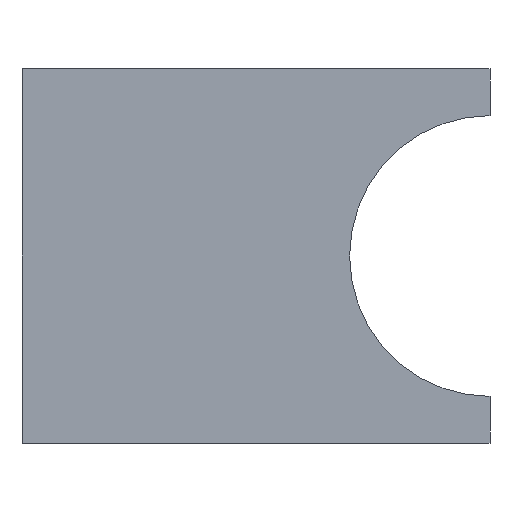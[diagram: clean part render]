
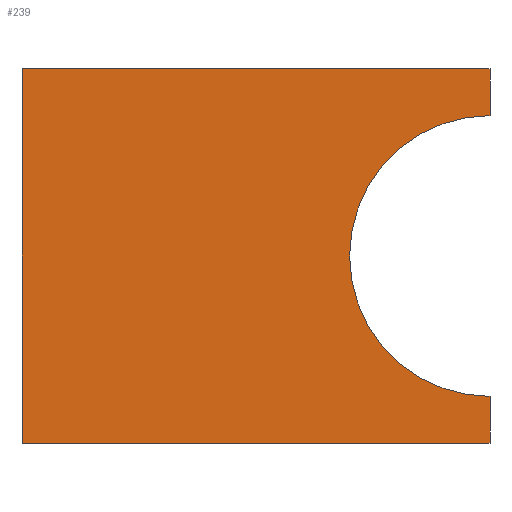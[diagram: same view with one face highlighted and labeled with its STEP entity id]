
A CAD part, left-side view. The second image highlights one B-rep face of the part: STEP entity #239.
In plain terms, the highlighted planar face has unit normal (-1, 0, 0).
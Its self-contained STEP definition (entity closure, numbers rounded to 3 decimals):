
#8 = CARTESIAN_POINT ( 'NONE',  ( -45., -25., 40. ) ) ;
#10 = DIRECTION ( 'NONE',  ( 0., 0., -1. ) ) ;
#17 = EDGE_LOOP ( 'NONE', ( #85, #146, #145, #319, #233, #197 ) ) ;
#25 = CARTESIAN_POINT ( 'NONE',  ( -45., -25., 35. ) ) ;
#26 = VERTEX_POINT ( 'NONE', #194 ) ;
#30 = VERTEX_POINT ( 'NONE', #44 ) ;
#44 = CARTESIAN_POINT ( 'NONE',  ( -45., 25., 40. ) ) ;
#51 = CARTESIAN_POINT ( 'NONE',  ( -45., 25., 40. ) ) ;
#61 = EDGE_CURVE ( 'NONE', #242, #92, #95, .T. ) ;
#63 = VECTOR ( 'NONE', #206, 1000. ) ;
#67 = VECTOR ( 'NONE', #10, 1000. ) ;
#69 = CARTESIAN_POINT ( 'NONE',  ( -45., -25., 40. ) ) ;
#73 = EDGE_CURVE ( 'NONE', #30, #343, #325, .T. ) ;
#75 = LINE ( 'NONE', #8, #67 ) ;
#78 = DIRECTION ( 'NONE',  ( 0., 0., -1. ) ) ;
#79 = EDGE_CURVE ( 'NONE', #26, #303, #127, .T. ) ;
#83 = FACE_OUTER_BOUND ( 'NONE', #17, .T. ) ;
#85 = ORIENTED_EDGE ( 'NONE', *, *, #280, .F. ) ;
#89 = DIRECTION ( 'NONE',  ( -1., 0., 0. ) ) ;
#92 = VERTEX_POINT ( 'NONE', #332 ) ;
#95 = CIRCLE ( 'NONE', #322, 15. ) ;
#127 = LINE ( 'NONE', #235, #232 ) ;
#145 = ORIENTED_EDGE ( 'NONE', *, *, #336, .F. ) ;
#146 = ORIENTED_EDGE ( 'NONE', *, *, #61, .F. ) ;
#164 = CARTESIAN_POINT ( 'NONE',  ( -45., -25., 0. ) ) ;
#175 = DIRECTION ( 'NONE',  ( 0., -1., 0. ) ) ;
#179 = LINE ( 'NONE', #188, #295 ) ;
#185 = DIRECTION ( 'NONE',  ( 0., 0., 1. ) ) ;
#188 = CARTESIAN_POINT ( 'NONE',  ( -45., -25., 40. ) ) ;
#194 = CARTESIAN_POINT ( 'NONE',  ( -45., 25., 0. ) ) ;
#197 = ORIENTED_EDGE ( 'NONE', *, *, #79, .T. ) ;
#206 = DIRECTION ( 'NONE',  ( 0., -1., 0. ) ) ;
#214 = CARTESIAN_POINT ( 'NONE',  ( -45., -25., 20. ) ) ;
#215 = DIRECTION ( 'NONE',  ( 0., 0., -1. ) ) ;
#217 = CARTESIAN_POINT ( 'NONE',  ( -45., -25., 40. ) ) ;
#225 = AXIS2_PLACEMENT_3D ( 'NONE', #69, #243, #267 ) ;
#232 = VECTOR ( 'NONE', #175, 1000. ) ;
#233 = ORIENTED_EDGE ( 'NONE', *, *, #281, .T. ) ;
#235 = CARTESIAN_POINT ( 'NONE',  ( -45., -25., 0. ) ) ;
#239 = ADVANCED_FACE ( 'NONE', ( #83 ), #264, .F. ) ;
#242 = VERTEX_POINT ( 'NONE', #25 ) ;
#243 = DIRECTION ( 'NONE',  ( 1., 0., 0. ) ) ;
#264 = PLANE ( 'NONE',  #225 ) ;
#267 = DIRECTION ( 'NONE',  ( 0., 0., -1. ) ) ;
#280 = EDGE_CURVE ( 'NONE', #92, #303, #179, .T. ) ;
#281 = EDGE_CURVE ( 'NONE', #30, #26, #326, .T. ) ;
#287 = CARTESIAN_POINT ( 'NONE',  ( -45., -25., 40. ) ) ;
#295 = VECTOR ( 'NONE', #215, 1000. ) ;
#303 = VERTEX_POINT ( 'NONE', #164 ) ;
#319 = ORIENTED_EDGE ( 'NONE', *, *, #73, .F. ) ;
#320 = VECTOR ( 'NONE', #78, 1000. ) ;
#322 = AXIS2_PLACEMENT_3D ( 'NONE', #214, #89, #185 ) ;
#325 = LINE ( 'NONE', #287, #63 ) ;
#326 = LINE ( 'NONE', #51, #320 ) ;
#332 = CARTESIAN_POINT ( 'NONE',  ( -45., -25., 5. ) ) ;
#336 = EDGE_CURVE ( 'NONE', #343, #242, #75, .T. ) ;
#343 = VERTEX_POINT ( 'NONE', #217 ) ;
